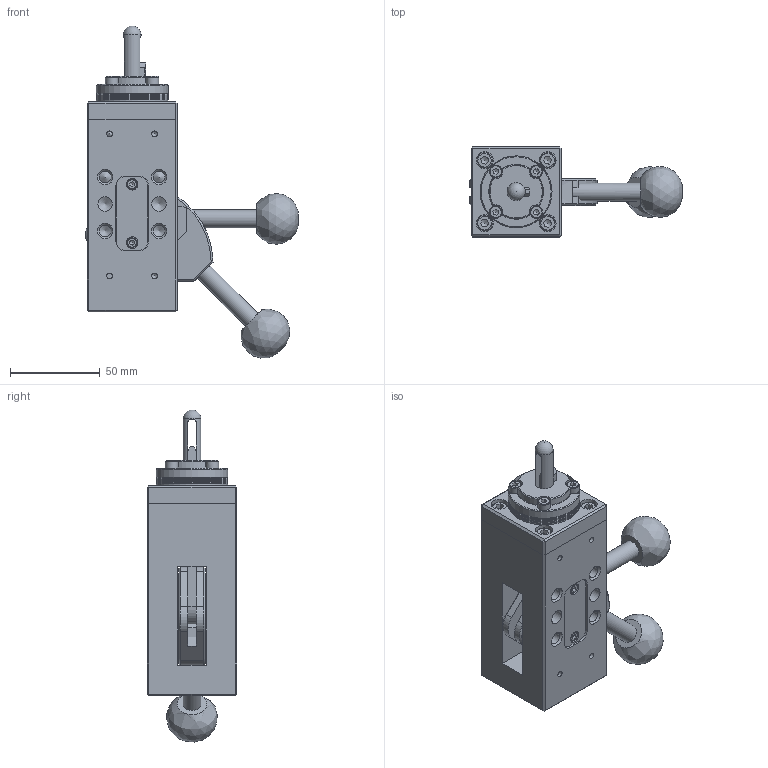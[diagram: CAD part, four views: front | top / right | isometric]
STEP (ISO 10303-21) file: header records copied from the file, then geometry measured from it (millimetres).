
FILE_DESCRIPTION(/* description */ (''),/* implementation_level */ '2;1');
FILE_NAME(/* name */ 'S:\Tom\INVENTOR FILES\AUTOMOTIVE\UNDERBODY CLAMPS\XPCB\SIMPLIFIED MODELS\STEP\XPCB-10-02-NS.stp',/* time_stamp */ '2021-06-08T09:57:04+01:00',/* author */ ('RWilson'),/* organization */ (''),/* preprocessor_version */ 'ST-DEVELOPER v18.1',/* originating_system */ 'Autodesk Inventor 2021',/* authorisation */ '');
FILE_SCHEMA (('AUTOMOTIVE_DESIGN { 1 0 10303 214 3 1 1 }'));
Length unit declared in the file: millimetre
Products named in the file (9): XPCB-10-02; XPCB - BODY; XPCB - HANDLE; XPCB - TOP PLATE; XPCB - 1MM SHIM; XPCB - 0.5MM SHIM; XPCB - 10MM CLAMPING RING & PIN; XPCB - 10MM HOOK; XPCB - BLANKING COVER
Assembly tree (13 placements, depth 2):
  XPCB-10-02
    XPCB - BODY
    XPCB - HANDLE  x2
    XPCB - TOP PLATE
    XPCB - 0.5MM SHIM  x2
    XPCB - 1MM SHIM  x3
    XPCB - 10MM CLAMPING RING & PIN
    XPCB - 10MM HOOK
    XPCB - BLANKING COVER  x2
Bounding box: 118.38 x 50 x 184.64 mm (x, y, z)
Volume: 334165.3 mm3; surface area: 100953.4 mm2
Topology: 13 solids, 23 shells, 523 faces, 1385 edges, 931 vertices
Faces by surface type: plane 256, cylinder 144, cone 104, torus 16, bspline 2, sphere 1
Full cylindrical faces by diameter (mm): 2.459 x4, 3 x8, 3.2 x4, 3.242 x8, 4.917 x3, 5.5 x4, 6 x3, 6.5 x4, 6.6 x3, 6.647 x12, 7 x4, 8 x6, 8.376 x2, 8.5 x4, 9.5 x4, 10 x5, 40 x6
Entity records: 13119 total; most frequent: CARTESIAN_POINT 2547, DIRECTION 2228, ORIENTED_EDGE 2096, EDGE_CURVE 1048, AXIS2_PLACEMENT_3D 849, VERTEX_POINT 737, LINE 530, VECTOR 530
